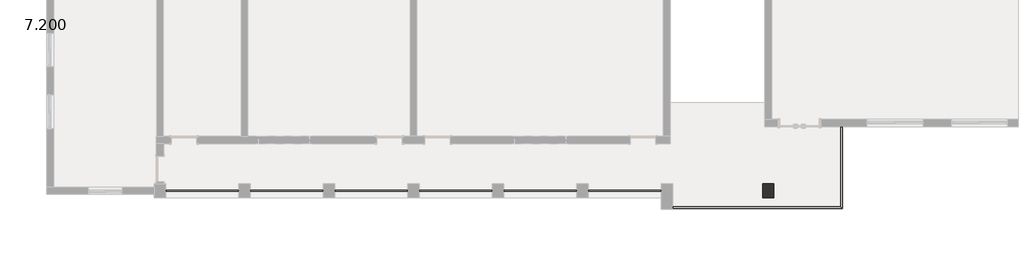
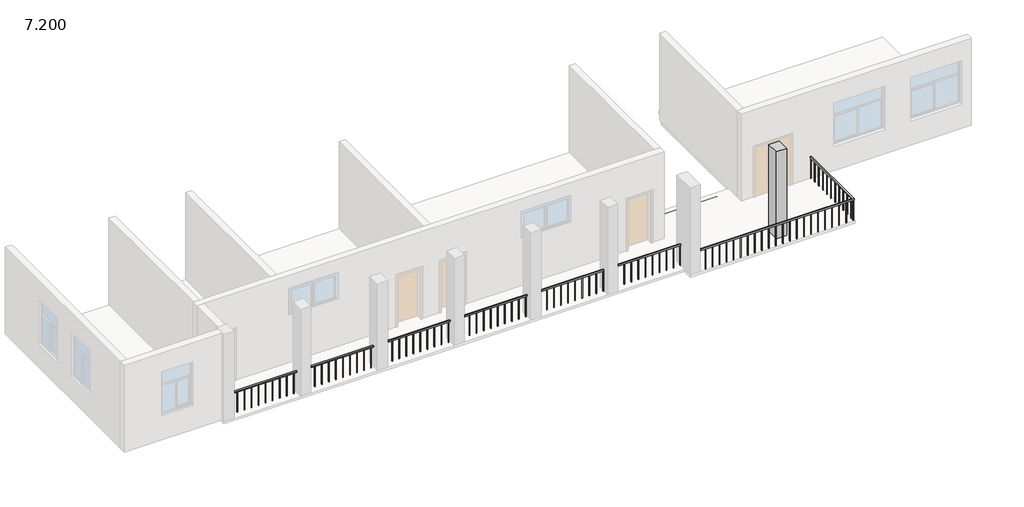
# One storey, part 2 of 2: 2 railings, 1 beam, 1 column.
"""IFC4 building model written with IfcOpenShell, lengths in millimetres."""

from ifc_helpers import new_model, si_unit, frame, origin, place, context, project, spatial, polyline, outline, extrude, faceted_brep, transform, mapped, element, save
from components import beam_200mmx150mm_381acce5, column_400x500mm_8f91d95e

model = new_model("IFC4")

# Units and contexts
model_context = context("Model", 3, world=origin())
ifc_project = project(units=[si_unit("LENGTHUNIT", "METRE", prefix="MILLI")], contexts=[model_context])

# Site, building, storey
site = spatial("IfcSite", under=ifc_project)
building = spatial("IfcBuilding", under=site)
storey = spatial("IfcBuildingStorey", under=building, Name="7.200", Elevation=7200.0)

# Beam
placement = place(None, origin())
beam_200mmx150mm_shape = beam_200mmx150mm_381acce5(model_context)
element("IfcBeam", 1, ObjectType="混凝土 - 矩形梁 : 200mmX150mm", at=placement, inside=storey, context=model_context, shape_type="MappedRepresentation", body=[
    mapped(beam_200mmx150mm_shape, transform((353.9823355, -22918.2373497, 7025.0), x_axis=(1.0, 0.0, 0.0), y_axis=(0.0, 1.0, 0.0), z_axis=(0.0, 0.0, 1.0))),
])

# Column
column_400x500mm_shape = column_400x500mm_8f91d95e(model_context)
element("IfcColumn", 2, ObjectType="混凝土 - 矩形 - 柱 : 400X500mm", at=placement, inside=storey, context=model_context, shape_type="MappedRepresentation", body=[
    mapped(column_400x500mm_shape, transform((2140.8785458, -25938.2373497, 0.0), x_axis=(1.0, 0.0, 0.0), y_axis=(0.0, 1.0, 0.0), z_axis=(0.0, 0.0, 1.0))),
])

# Railings
element("IfcRailing", 3, ObjectType="900mm", at=placement, inside=storey, context=model_context, shape_type="SweptSolid", body=[
    extrude(outline(polyline([(-19259.1214542, -25963.2373497), (-19259.1214542, -25913.2373497), (-1659.1214542, -25913.2373497), (-1659.1214542, -25963.2373497), (-19259.1214542, -25963.2373497)])), frame((0.0, 0.0, 8050.0), z_axis=(0.0, 0.0, 1.0), x_axis=(1.0, 0.0, 0.0)), (0.0, 0.0, 1.0), 50.0),
    extrude(outline(polyline([(-1944.1214542, -25948.2373497), (-1944.1214542, -25928.2373497), (-1924.1214542, -25928.2373497), (-1924.1214542, -25948.2373497), (-1944.1214542, -25948.2373497)])), frame((0.0, 0.0, 7200.0), z_axis=(0.0, 0.0, 1.0), x_axis=(1.0, 0.0, 0.0)), (0.0, 0.0, 1.0), 850.0),
    extrude(outline(polyline([(-2219.1214542, -25948.2373497), (-2219.1214542, -25928.2373497), (-2199.1214542, -25928.2373497), (-2199.1214542, -25948.2373497), (-2219.1214542, -25948.2373497)])), frame((0.0, 0.0, 7200.0), z_axis=(0.0, 0.0, 1.0), x_axis=(1.0, 0.0, 0.0)), (0.0, 0.0, 1.0), 850.0),
    extrude(outline(polyline([(-2494.1214542, -25948.2373497), (-2494.1214542, -25928.2373497), (-2474.1214542, -25928.2373497), (-2474.1214542, -25948.2373497), (-2494.1214542, -25948.2373497)])), frame((0.0, 0.0, 7200.0), z_axis=(0.0, 0.0, 1.0), x_axis=(1.0, 0.0, 0.0)), (0.0, 0.0, 1.0), 850.0),
    extrude(outline(polyline([(-2769.1214542, -25948.2373497), (-2769.1214542, -25928.2373497), (-2749.1214542, -25928.2373497), (-2749.1214542, -25948.2373497), (-2769.1214542, -25948.2373497)])), frame((0.0, 0.0, 7200.0), z_axis=(0.0, 0.0, 1.0), x_axis=(1.0, 0.0, 0.0)), (0.0, 0.0, 1.0), 850.0),
    extrude(outline(polyline([(-3044.1214542, -25948.2373497), (-3044.1214542, -25928.2373497), (-3024.1214542, -25928.2373497), (-3024.1214542, -25948.2373497), (-3044.1214542, -25948.2373497)])), frame((0.0, 0.0, 7200.0), z_axis=(0.0, 0.0, 1.0), x_axis=(1.0, 0.0, 0.0)), (0.0, 0.0, 1.0), 850.0),
    extrude(outline(polyline([(-3319.1214542, -25948.2373497), (-3319.1214542, -25928.2373497), (-3299.1214542, -25928.2373497), (-3299.1214542, -25948.2373497), (-3319.1214542, -25948.2373497)])), frame((0.0, 0.0, 7200.0), z_axis=(0.0, 0.0, 1.0), x_axis=(1.0, 0.0, 0.0)), (0.0, 0.0, 1.0), 850.0),
    extrude(outline(polyline([(-3594.1214542, -25948.2373497), (-3594.1214542, -25928.2373497), (-3574.1214542, -25928.2373497), (-3574.1214542, -25948.2373497), (-3594.1214542, -25948.2373497)])), frame((0.0, 0.0, 7200.0), z_axis=(0.0, 0.0, 1.0), x_axis=(1.0, 0.0, 0.0)), (0.0, 0.0, 1.0), 850.0),
    extrude(outline(polyline([(-3869.1214542, -25948.2373497), (-3869.1214542, -25928.2373497), (-3849.1214542, -25928.2373497), (-3849.1214542, -25948.2373497), (-3869.1214542, -25948.2373497)])), frame((0.0, 0.0, 7200.0), z_axis=(0.0, 0.0, 1.0), x_axis=(1.0, 0.0, 0.0)), (0.0, 0.0, 1.0), 850.0),
    extrude(outline(polyline([(-4144.1214542, -25948.2373497), (-4144.1214542, -25928.2373497), (-4124.1214542, -25928.2373497), (-4124.1214542, -25948.2373497), (-4144.1214542, -25948.2373497)])), frame((0.0, 0.0, 7200.0), z_axis=(0.0, 0.0, 1.0), x_axis=(1.0, 0.0, 0.0)), (0.0, 0.0, 1.0), 850.0),
    extrude(outline(polyline([(-4419.1214542, -25948.2373497), (-4419.1214542, -25928.2373497), (-4399.1214542, -25928.2373497), (-4399.1214542, -25948.2373497), (-4419.1214542, -25948.2373497)])), frame((0.0, 0.0, 7200.0), z_axis=(0.0, 0.0, 1.0), x_axis=(1.0, 0.0, 0.0)), (0.0, 0.0, 1.0), 850.0),
    extrude(outline(polyline([(-4694.1214542, -25948.2373497), (-4694.1214542, -25928.2373497), (-4674.1214542, -25928.2373497), (-4674.1214542, -25948.2373497), (-4694.1214542, -25948.2373497)])), frame((0.0, 0.0, 7200.0), z_axis=(0.0, 0.0, 1.0), x_axis=(1.0, 0.0, 0.0)), (0.0, 0.0, 1.0), 850.0),
    extrude(outline(polyline([(-4969.1214542, -25948.2373497), (-4969.1214542, -25928.2373497), (-4949.1214542, -25928.2373497), (-4949.1214542, -25948.2373497), (-4969.1214542, -25948.2373497)])), frame((0.0, 0.0, 7200.0), z_axis=(0.0, 0.0, 1.0), x_axis=(1.0, 0.0, 0.0)), (0.0, 0.0, 1.0), 850.0),
    extrude(outline(polyline([(-5244.1214542, -25948.2373497), (-5244.1214542, -25928.2373497), (-5224.1214542, -25928.2373497), (-5224.1214542, -25948.2373497), (-5244.1214542, -25948.2373497)])), frame((0.0, 0.0, 7200.0), z_axis=(0.0, 0.0, 1.0), x_axis=(1.0, 0.0, 0.0)), (0.0, 0.0, 1.0), 850.0),
    extrude(outline(polyline([(-5519.1214542, -25948.2373497), (-5519.1214542, -25928.2373497), (-5499.1214542, -25928.2373497), (-5499.1214542, -25948.2373497), (-5519.1214542, -25948.2373497)])), frame((0.0, 0.0, 7200.0), z_axis=(0.0, 0.0, 1.0), x_axis=(1.0, 0.0, 0.0)), (0.0, 0.0, 1.0), 850.0),
    extrude(outline(polyline([(-5794.1214542, -25948.2373497), (-5794.1214542, -25928.2373497), (-5774.1214542, -25928.2373497), (-5774.1214542, -25948.2373497), (-5794.1214542, -25948.2373497)])), frame((0.0, 0.0, 7200.0), z_axis=(0.0, 0.0, 1.0), x_axis=(1.0, 0.0, 0.0)), (0.0, 0.0, 1.0), 850.0),
    extrude(outline(polyline([(-6069.1214542, -25948.2373497), (-6069.1214542, -25928.2373497), (-6049.1214542, -25928.2373497), (-6049.1214542, -25948.2373497), (-6069.1214542, -25948.2373497)])), frame((0.0, 0.0, 7200.0), z_axis=(0.0, 0.0, 1.0), x_axis=(1.0, 0.0, 0.0)), (0.0, 0.0, 1.0), 850.0),
    extrude(outline(polyline([(-6344.1214542, -25948.2373497), (-6344.1214542, -25928.2373497), (-6324.1214542, -25928.2373497), (-6324.1214542, -25948.2373497), (-6344.1214542, -25948.2373497)])), frame((0.0, 0.0, 7200.0), z_axis=(0.0, 0.0, 1.0), x_axis=(1.0, 0.0, 0.0)), (0.0, 0.0, 1.0), 850.0),
    extrude(outline(polyline([(-6619.1214542, -25948.2373497), (-6619.1214542, -25928.2373497), (-6599.1214542, -25928.2373497), (-6599.1214542, -25948.2373497), (-6619.1214542, -25948.2373497)])), frame((0.0, 0.0, 7200.0), z_axis=(0.0, 0.0, 1.0), x_axis=(1.0, 0.0, 0.0)), (0.0, 0.0, 1.0), 850.0),
    extrude(outline(polyline([(-6894.1214542, -25948.2373497), (-6894.1214542, -25928.2373497), (-6874.1214542, -25928.2373497), (-6874.1214542, -25948.2373497), (-6894.1214542, -25948.2373497)])), frame((0.0, 0.0, 7200.0), z_axis=(0.0, 0.0, 1.0), x_axis=(1.0, 0.0, 0.0)), (0.0, 0.0, 1.0), 850.0),
    extrude(outline(polyline([(-7169.1214542, -25948.2373497), (-7169.1214542, -25928.2373497), (-7149.1214542, -25928.2373497), (-7149.1214542, -25948.2373497), (-7169.1214542, -25948.2373497)])), frame((0.0, 0.0, 7200.0), z_axis=(0.0, 0.0, 1.0), x_axis=(1.0, 0.0, 0.0)), (0.0, 0.0, 1.0), 850.0),
    extrude(outline(polyline([(-7444.1214542, -25948.2373497), (-7444.1214542, -25928.2373497), (-7424.1214542, -25928.2373497), (-7424.1214542, -25948.2373497), (-7444.1214542, -25948.2373497)])), frame((0.0, 0.0, 7200.0), z_axis=(0.0, 0.0, 1.0), x_axis=(1.0, 0.0, 0.0)), (0.0, 0.0, 1.0), 850.0),
    extrude(outline(polyline([(-7719.1214542, -25948.2373497), (-7719.1214542, -25928.2373497), (-7699.1214542, -25928.2373497), (-7699.1214542, -25948.2373497), (-7719.1214542, -25948.2373497)])), frame((0.0, 0.0, 7200.0), z_axis=(0.0, 0.0, 1.0), x_axis=(1.0, 0.0, 0.0)), (0.0, 0.0, 1.0), 850.0),
    extrude(outline(polyline([(-7994.1214542, -25948.2373497), (-7994.1214542, -25928.2373497), (-7974.1214542, -25928.2373497), (-7974.1214542, -25948.2373497), (-7994.1214542, -25948.2373497)])), frame((0.0, 0.0, 7200.0), z_axis=(0.0, 0.0, 1.0), x_axis=(1.0, 0.0, 0.0)), (0.0, 0.0, 1.0), 850.0),
    extrude(outline(polyline([(-8269.1214542, -25948.2373497), (-8269.1214542, -25928.2373497), (-8249.1214542, -25928.2373497), (-8249.1214542, -25948.2373497), (-8269.1214542, -25948.2373497)])), frame((0.0, 0.0, 7200.0), z_axis=(0.0, 0.0, 1.0), x_axis=(1.0, 0.0, 0.0)), (0.0, 0.0, 1.0), 850.0),
    extrude(outline(polyline([(-8544.1214542, -25948.2373497), (-8544.1214542, -25928.2373497), (-8524.1214542, -25928.2373497), (-8524.1214542, -25948.2373497), (-8544.1214542, -25948.2373497)])), frame((0.0, 0.0, 7200.0), z_axis=(0.0, 0.0, 1.0), x_axis=(1.0, 0.0, 0.0)), (0.0, 0.0, 1.0), 850.0),
    extrude(outline(polyline([(-8819.1214542, -25948.2373497), (-8819.1214542, -25928.2373497), (-8799.1214542, -25928.2373497), (-8799.1214542, -25948.2373497), (-8819.1214542, -25948.2373497)])), frame((0.0, 0.0, 7200.0), z_axis=(0.0, 0.0, 1.0), x_axis=(1.0, 0.0, 0.0)), (0.0, 0.0, 1.0), 850.0),
    extrude(outline(polyline([(-9094.1214542, -25948.2373497), (-9094.1214542, -25928.2373497), (-9074.1214542, -25928.2373497), (-9074.1214542, -25948.2373497), (-9094.1214542, -25948.2373497)])), frame((0.0, 0.0, 7200.0), z_axis=(0.0, 0.0, 1.0), x_axis=(1.0, 0.0, 0.0)), (0.0, 0.0, 1.0), 850.0),
    extrude(outline(polyline([(-9369.1214542, -25948.2373497), (-9369.1214542, -25928.2373497), (-9349.1214542, -25928.2373497), (-9349.1214542, -25948.2373497), (-9369.1214542, -25948.2373497)])), frame((0.0, 0.0, 7200.0), z_axis=(0.0, 0.0, 1.0), x_axis=(1.0, 0.0, 0.0)), (0.0, 0.0, 1.0), 850.0),
    extrude(outline(polyline([(-9644.1214542, -25948.2373497), (-9644.1214542, -25928.2373497), (-9624.1214542, -25928.2373497), (-9624.1214542, -25948.2373497), (-9644.1214542, -25948.2373497)])), frame((0.0, 0.0, 7200.0), z_axis=(0.0, 0.0, 1.0), x_axis=(1.0, 0.0, 0.0)), (0.0, 0.0, 1.0), 850.0),
    extrude(outline(polyline([(-9919.1214542, -25948.2373497), (-9919.1214542, -25928.2373497), (-9899.1214542, -25928.2373497), (-9899.1214542, -25948.2373497), (-9919.1214542, -25948.2373497)])), frame((0.0, 0.0, 7200.0), z_axis=(0.0, 0.0, 1.0), x_axis=(1.0, 0.0, 0.0)), (0.0, 0.0, 1.0), 850.0),
    extrude(outline(polyline([(-10194.1214542, -25948.2373497), (-10194.1214542, -25928.2373497), (-10174.1214542, -25928.2373497), (-10174.1214542, -25948.2373497), (-10194.1214542, -25948.2373497)])), frame((0.0, 0.0, 7200.0), z_axis=(0.0, 0.0, 1.0), x_axis=(1.0, 0.0, 0.0)), (0.0, 0.0, 1.0), 850.0),
    extrude(outline(polyline([(-10469.1214542, -25948.2373497), (-10469.1214542, -25928.2373497), (-10449.1214542, -25928.2373497), (-10449.1214542, -25948.2373497), (-10469.1214542, -25948.2373497)])), frame((0.0, 0.0, 7200.0), z_axis=(0.0, 0.0, 1.0), x_axis=(1.0, 0.0, 0.0)), (0.0, 0.0, 1.0), 850.0),
    extrude(outline(polyline([(-10744.1214542, -25948.2373497), (-10744.1214542, -25928.2373497), (-10724.1214542, -25928.2373497), (-10724.1214542, -25948.2373497), (-10744.1214542, -25948.2373497)])), frame((0.0, 0.0, 7200.0), z_axis=(0.0, 0.0, 1.0), x_axis=(1.0, 0.0, 0.0)), (0.0, 0.0, 1.0), 850.0),
    extrude(outline(polyline([(-11019.1214542, -25948.2373497), (-11019.1214542, -25928.2373497), (-10999.1214542, -25928.2373497), (-10999.1214542, -25948.2373497), (-11019.1214542, -25948.2373497)])), frame((0.0, 0.0, 7200.0), z_axis=(0.0, 0.0, 1.0), x_axis=(1.0, 0.0, 0.0)), (0.0, 0.0, 1.0), 850.0),
    extrude(outline(polyline([(-11294.1214542, -25948.2373497), (-11294.1214542, -25928.2373497), (-11274.1214542, -25928.2373497), (-11274.1214542, -25948.2373497), (-11294.1214542, -25948.2373497)])), frame((0.0, 0.0, 7200.0), z_axis=(0.0, 0.0, 1.0), x_axis=(1.0, 0.0, 0.0)), (0.0, 0.0, 1.0), 850.0),
    extrude(outline(polyline([(-11569.1214542, -25948.2373497), (-11569.1214542, -25928.2373497), (-11549.1214542, -25928.2373497), (-11549.1214542, -25948.2373497), (-11569.1214542, -25948.2373497)])), frame((0.0, 0.0, 7200.0), z_axis=(0.0, 0.0, 1.0), x_axis=(1.0, 0.0, 0.0)), (0.0, 0.0, 1.0), 850.0),
    extrude(outline(polyline([(-11844.1214542, -25948.2373497), (-11844.1214542, -25928.2373497), (-11824.1214542, -25928.2373497), (-11824.1214542, -25948.2373497), (-11844.1214542, -25948.2373497)])), frame((0.0, 0.0, 7200.0), z_axis=(0.0, 0.0, 1.0), x_axis=(1.0, 0.0, 0.0)), (0.0, 0.0, 1.0), 850.0),
    extrude(outline(polyline([(-12119.1214542, -25948.2373497), (-12119.1214542, -25928.2373497), (-12099.1214542, -25928.2373497), (-12099.1214542, -25948.2373497), (-12119.1214542, -25948.2373497)])), frame((0.0, 0.0, 7200.0), z_axis=(0.0, 0.0, 1.0), x_axis=(1.0, 0.0, 0.0)), (0.0, 0.0, 1.0), 850.0),
    extrude(outline(polyline([(-12394.1214542, -25948.2373497), (-12394.1214542, -25928.2373497), (-12374.1214542, -25928.2373497), (-12374.1214542, -25948.2373497), (-12394.1214542, -25948.2373497)])), frame((0.0, 0.0, 7200.0), z_axis=(0.0, 0.0, 1.0), x_axis=(1.0, 0.0, 0.0)), (0.0, 0.0, 1.0), 850.0),
    extrude(outline(polyline([(-12669.1214542, -25948.2373497), (-12669.1214542, -25928.2373497), (-12649.1214542, -25928.2373497), (-12649.1214542, -25948.2373497), (-12669.1214542, -25948.2373497)])), frame((0.0, 0.0, 7200.0), z_axis=(0.0, 0.0, 1.0), x_axis=(1.0, 0.0, 0.0)), (0.0, 0.0, 1.0), 850.0),
    extrude(outline(polyline([(-12944.1214542, -25948.2373497), (-12944.1214542, -25928.2373497), (-12924.1214542, -25928.2373497), (-12924.1214542, -25948.2373497), (-12944.1214542, -25948.2373497)])), frame((0.0, 0.0, 7200.0), z_axis=(0.0, 0.0, 1.0), x_axis=(1.0, 0.0, 0.0)), (0.0, 0.0, 1.0), 850.0),
    extrude(outline(polyline([(-13219.1214542, -25948.2373497), (-13219.1214542, -25928.2373497), (-13199.1214542, -25928.2373497), (-13199.1214542, -25948.2373497), (-13219.1214542, -25948.2373497)])), frame((0.0, 0.0, 7200.0), z_axis=(0.0, 0.0, 1.0), x_axis=(1.0, 0.0, 0.0)), (0.0, 0.0, 1.0), 850.0),
    extrude(outline(polyline([(-13494.1214542, -25948.2373497), (-13494.1214542, -25928.2373497), (-13474.1214542, -25928.2373497), (-13474.1214542, -25948.2373497), (-13494.1214542, -25948.2373497)])), frame((0.0, 0.0, 7200.0), z_axis=(0.0, 0.0, 1.0), x_axis=(1.0, 0.0, 0.0)), (0.0, 0.0, 1.0), 850.0),
    extrude(outline(polyline([(-13769.1214542, -25948.2373497), (-13769.1214542, -25928.2373497), (-13749.1214542, -25928.2373497), (-13749.1214542, -25948.2373497), (-13769.1214542, -25948.2373497)])), frame((0.0, 0.0, 7200.0), z_axis=(0.0, 0.0, 1.0), x_axis=(1.0, 0.0, 0.0)), (0.0, 0.0, 1.0), 850.0),
    extrude(outline(polyline([(-14044.1214542, -25948.2373497), (-14044.1214542, -25928.2373497), (-14024.1214542, -25928.2373497), (-14024.1214542, -25948.2373497), (-14044.1214542, -25948.2373497)])), frame((0.0, 0.0, 7200.0), z_axis=(0.0, 0.0, 1.0), x_axis=(1.0, 0.0, 0.0)), (0.0, 0.0, 1.0), 850.0),
    extrude(outline(polyline([(-14319.1214542, -25948.2373497), (-14319.1214542, -25928.2373497), (-14299.1214542, -25928.2373497), (-14299.1214542, -25948.2373497), (-14319.1214542, -25948.2373497)])), frame((0.0, 0.0, 7200.0), z_axis=(0.0, 0.0, 1.0), x_axis=(1.0, 0.0, 0.0)), (0.0, 0.0, 1.0), 850.0),
    extrude(outline(polyline([(-14594.1214542, -25948.2373497), (-14594.1214542, -25928.2373497), (-14574.1214542, -25928.2373497), (-14574.1214542, -25948.2373497), (-14594.1214542, -25948.2373497)])), frame((0.0, 0.0, 7200.0), z_axis=(0.0, 0.0, 1.0), x_axis=(1.0, 0.0, 0.0)), (0.0, 0.0, 1.0), 850.0),
    extrude(outline(polyline([(-14869.1214542, -25948.2373497), (-14869.1214542, -25928.2373497), (-14849.1214542, -25928.2373497), (-14849.1214542, -25948.2373497), (-14869.1214542, -25948.2373497)])), frame((0.0, 0.0, 7200.0), z_axis=(0.0, 0.0, 1.0), x_axis=(1.0, 0.0, 0.0)), (0.0, 0.0, 1.0), 850.0),
    extrude(outline(polyline([(-15144.1214542, -25948.2373497), (-15144.1214542, -25928.2373497), (-15124.1214542, -25928.2373497), (-15124.1214542, -25948.2373497), (-15144.1214542, -25948.2373497)])), frame((0.0, 0.0, 7200.0), z_axis=(0.0, 0.0, 1.0), x_axis=(1.0, 0.0, 0.0)), (0.0, 0.0, 1.0), 850.0),
    extrude(outline(polyline([(-15419.1214542, -25948.2373497), (-15419.1214542, -25928.2373497), (-15399.1214542, -25928.2373497), (-15399.1214542, -25948.2373497), (-15419.1214542, -25948.2373497)])), frame((0.0, 0.0, 7200.0), z_axis=(0.0, 0.0, 1.0), x_axis=(1.0, 0.0, 0.0)), (0.0, 0.0, 1.0), 850.0),
    extrude(outline(polyline([(-15694.1214542, -25948.2373497), (-15694.1214542, -25928.2373497), (-15674.1214542, -25928.2373497), (-15674.1214542, -25948.2373497), (-15694.1214542, -25948.2373497)])), frame((0.0, 0.0, 7200.0), z_axis=(0.0, 0.0, 1.0), x_axis=(1.0, 0.0, 0.0)), (0.0, 0.0, 1.0), 850.0),
    extrude(outline(polyline([(-15969.1214542, -25948.2373497), (-15969.1214542, -25928.2373497), (-15949.1214542, -25928.2373497), (-15949.1214542, -25948.2373497), (-15969.1214542, -25948.2373497)])), frame((0.0, 0.0, 7200.0), z_axis=(0.0, 0.0, 1.0), x_axis=(1.0, 0.0, 0.0)), (0.0, 0.0, 1.0), 850.0),
    extrude(outline(polyline([(-16244.1214542, -25948.2373497), (-16244.1214542, -25928.2373497), (-16224.1214542, -25928.2373497), (-16224.1214542, -25948.2373497), (-16244.1214542, -25948.2373497)])), frame((0.0, 0.0, 7200.0), z_axis=(0.0, 0.0, 1.0), x_axis=(1.0, 0.0, 0.0)), (0.0, 0.0, 1.0), 850.0),
    extrude(outline(polyline([(-16519.1214542, -25948.2373497), (-16519.1214542, -25928.2373497), (-16499.1214542, -25928.2373497), (-16499.1214542, -25948.2373497), (-16519.1214542, -25948.2373497)])), frame((0.0, 0.0, 7200.0), z_axis=(0.0, 0.0, 1.0), x_axis=(1.0, 0.0, 0.0)), (0.0, 0.0, 1.0), 850.0),
    extrude(outline(polyline([(-16794.1214542, -25948.2373497), (-16794.1214542, -25928.2373497), (-16774.1214542, -25928.2373497), (-16774.1214542, -25948.2373497), (-16794.1214542, -25948.2373497)])), frame((0.0, 0.0, 7200.0), z_axis=(0.0, 0.0, 1.0), x_axis=(1.0, 0.0, 0.0)), (0.0, 0.0, 1.0), 850.0),
    extrude(outline(polyline([(-17069.1214542, -25948.2373497), (-17069.1214542, -25928.2373497), (-17049.1214542, -25928.2373497), (-17049.1214542, -25948.2373497), (-17069.1214542, -25948.2373497)])), frame((0.0, 0.0, 7200.0), z_axis=(0.0, 0.0, 1.0), x_axis=(1.0, 0.0, 0.0)), (0.0, 0.0, 1.0), 850.0),
    extrude(outline(polyline([(-17344.1214542, -25948.2373497), (-17344.1214542, -25928.2373497), (-17324.1214542, -25928.2373497), (-17324.1214542, -25948.2373497), (-17344.1214542, -25948.2373497)])), frame((0.0, 0.0, 7200.0), z_axis=(0.0, 0.0, 1.0), x_axis=(1.0, 0.0, 0.0)), (0.0, 0.0, 1.0), 850.0),
    extrude(outline(polyline([(-17619.1214542, -25948.2373497), (-17619.1214542, -25928.2373497), (-17599.1214542, -25928.2373497), (-17599.1214542, -25948.2373497), (-17619.1214542, -25948.2373497)])), frame((0.0, 0.0, 7200.0), z_axis=(0.0, 0.0, 1.0), x_axis=(1.0, 0.0, 0.0)), (0.0, 0.0, 1.0), 850.0),
    extrude(outline(polyline([(-17894.1214542, -25948.2373497), (-17894.1214542, -25928.2373497), (-17874.1214542, -25928.2373497), (-17874.1214542, -25948.2373497), (-17894.1214542, -25948.2373497)])), frame((0.0, 0.0, 7200.0), z_axis=(0.0, 0.0, 1.0), x_axis=(1.0, 0.0, 0.0)), (0.0, 0.0, 1.0), 850.0),
    extrude(outline(polyline([(-18169.1214542, -25948.2373497), (-18169.1214542, -25928.2373497), (-18149.1214542, -25928.2373497), (-18149.1214542, -25948.2373497), (-18169.1214542, -25948.2373497)])), frame((0.0, 0.0, 7200.0), z_axis=(0.0, 0.0, 1.0), x_axis=(1.0, 0.0, 0.0)), (0.0, 0.0, 1.0), 850.0),
    extrude(outline(polyline([(-18444.1214542, -25948.2373497), (-18444.1214542, -25928.2373497), (-18424.1214542, -25928.2373497), (-18424.1214542, -25948.2373497), (-18444.1214542, -25948.2373497)])), frame((0.0, 0.0, 7200.0), z_axis=(0.0, 0.0, 1.0), x_axis=(1.0, 0.0, 0.0)), (0.0, 0.0, 1.0), 850.0),
    extrude(outline(polyline([(-18719.1214542, -25948.2373497), (-18719.1214542, -25928.2373497), (-18699.1214542, -25928.2373497), (-18699.1214542, -25948.2373497), (-18719.1214542, -25948.2373497)])), frame((0.0, 0.0, 7200.0), z_axis=(0.0, 0.0, 1.0), x_axis=(1.0, 0.0, 0.0)), (0.0, 0.0, 1.0), 850.0),
    extrude(outline(polyline([(-18994.1214542, -25948.2373497), (-18994.1214542, -25928.2373497), (-18974.1214542, -25928.2373497), (-18974.1214542, -25948.2373497), (-18994.1214542, -25948.2373497)])), frame((0.0, 0.0, 7200.0), z_axis=(0.0, 0.0, 1.0), x_axis=(1.0, 0.0, 0.0)), (0.0, 0.0, 1.0), 850.0),
    extrude(outline(polyline([(-1679.1214542, -25948.2373497), (-1679.1214542, -25928.2373497), (-1659.1214542, -25928.2373497), (-1659.1214542, -25948.2373497), (-1679.1214542, -25948.2373497)])), frame((0.0, 0.0, 7200.0), z_axis=(0.0, 0.0, 1.0), x_axis=(1.0, 0.0, 0.0)), (0.0, 0.0, 1.0), 850.0),
    extrude(outline(polyline([(-19259.1214542, -25948.2373497), (-19259.1214542, -25928.2373497), (-19239.1214542, -25928.2373497), (-19239.1214542, -25948.2373497), (-19259.1214542, -25948.2373497)])), frame((0.0, 0.0, 7200.0), z_axis=(0.0, 0.0, 1.0), x_axis=(1.0, 0.0, 0.0)), (0.0, 0.0, 1.0), 850.0),
])
element("IfcRailing", 4, ObjectType="900mm", at=placement, inside=storey, context=model_context, shape_type="SolidModel", body=[
    faceted_brep([(4765.8785458, -23668.2373497, 8100.0), (4765.8785458, -23668.2373497, 8050.0), (4715.8785458, -23668.2373497, 8050.0), (4715.8785458, -23668.2373497, 8100.0), (4765.8785458, -26563.2373497, 8100.0), (4765.8785458, -26563.2373497, 8050.0), (4715.8785458, -26513.2373497, 8050.0), (4715.8785458, -26513.2373497, 8100.0), (-1259.1214542, -26563.2373497, 8100.0), (-1259.1214542, -26513.2373497, 8100.0), (-1259.1214542, -26513.2373497, 8050.0), (-1259.1214542, -26563.2373497, 8050.0)], [[[0, 1, 2, 3]], [[1, 0, 4, 5]], [[2, 1, 5, 6]], [[3, 2, 6, 7]], [[0, 3, 7, 4]], [[8, 9, 10, 11]], [[5, 4, 8, 11]], [[6, 5, 11, 10]], [[7, 6, 10, 9]], [[4, 7, 9, 8]]]),
    extrude(outline(polyline([(-1024.1214542, -26528.2373497), (-1024.1214542, -26548.2373497), (-1044.1214542, -26548.2373497), (-1044.1214542, -26528.2373497), (-1024.1214542, -26528.2373497)])), frame((0.0, 0.0, 7200.0), z_axis=(0.0, 0.0, 1.0), x_axis=(1.0, 0.0, 0.0)), (0.0, 0.0, 1.0), 850.0),
    extrude(outline(polyline([(-749.1214542, -26528.2373497), (-749.1214542, -26548.2373497), (-769.1214542, -26548.2373497), (-769.1214542, -26528.2373497), (-749.1214542, -26528.2373497)])), frame((0.0, 0.0, 7200.0), z_axis=(0.0, 0.0, 1.0), x_axis=(1.0, 0.0, 0.0)), (0.0, 0.0, 1.0), 850.0),
    extrude(outline(polyline([(-474.1214542, -26528.2373497), (-474.1214542, -26548.2373497), (-494.1214542, -26548.2373497), (-494.1214542, -26528.2373497), (-474.1214542, -26528.2373497)])), frame((0.0, 0.0, 7200.0), z_axis=(0.0, 0.0, 1.0), x_axis=(1.0, 0.0, 0.0)), (0.0, 0.0, 1.0), 850.0),
    extrude(outline(polyline([(-199.1214542, -26528.2373497), (-199.1214542, -26548.2373497), (-219.1214542, -26548.2373497), (-219.1214542, -26528.2373497), (-199.1214542, -26528.2373497)])), frame((0.0, 0.0, 7200.0), z_axis=(0.0, 0.0, 1.0), x_axis=(1.0, 0.0, 0.0)), (0.0, 0.0, 1.0), 850.0),
    extrude(outline(polyline([(75.8785458, -26528.2373497), (75.8785458, -26548.2373497), (55.8785458, -26548.2373497), (55.8785458, -26528.2373497), (75.8785458, -26528.2373497)])), frame((0.0, 0.0, 7200.0), z_axis=(0.0, 0.0, 1.0), x_axis=(1.0, 0.0, 0.0)), (0.0, 0.0, 1.0), 850.0),
    extrude(outline(polyline([(350.8785458, -26528.2373497), (350.8785458, -26548.2373497), (330.8785458, -26548.2373497), (330.8785458, -26528.2373497), (350.8785458, -26528.2373497)])), frame((0.0, 0.0, 7200.0), z_axis=(0.0, 0.0, 1.0), x_axis=(1.0, 0.0, 0.0)), (0.0, 0.0, 1.0), 850.0),
    extrude(outline(polyline([(625.8785458, -26528.2373497), (625.8785458, -26548.2373497), (605.8785458, -26548.2373497), (605.8785458, -26528.2373497), (625.8785458, -26528.2373497)])), frame((0.0, 0.0, 7200.0), z_axis=(0.0, 0.0, 1.0), x_axis=(1.0, 0.0, 0.0)), (0.0, 0.0, 1.0), 850.0),
    extrude(outline(polyline([(900.8785458, -26528.2373497), (900.8785458, -26548.2373497), (880.8785458, -26548.2373497), (880.8785458, -26528.2373497), (900.8785458, -26528.2373497)])), frame((0.0, 0.0, 7200.0), z_axis=(0.0, 0.0, 1.0), x_axis=(1.0, 0.0, 0.0)), (0.0, 0.0, 1.0), 850.0),
    extrude(outline(polyline([(1175.8785458, -26528.2373497), (1175.8785458, -26548.2373497), (1155.8785458, -26548.2373497), (1155.8785458, -26528.2373497), (1175.8785458, -26528.2373497)])), frame((0.0, 0.0, 7200.0), z_axis=(0.0, 0.0, 1.0), x_axis=(1.0, 0.0, 0.0)), (0.0, 0.0, 1.0), 850.0),
    extrude(outline(polyline([(1450.8785458, -26528.2373497), (1450.8785458, -26548.2373497), (1430.8785458, -26548.2373497), (1430.8785458, -26528.2373497), (1450.8785458, -26528.2373497)])), frame((0.0, 0.0, 7200.0), z_axis=(0.0, 0.0, 1.0), x_axis=(1.0, 0.0, 0.0)), (0.0, 0.0, 1.0), 850.0),
    extrude(outline(polyline([(1725.8785458, -26528.2373497), (1725.8785458, -26548.2373497), (1705.8785458, -26548.2373497), (1705.8785458, -26528.2373497), (1725.8785458, -26528.2373497)])), frame((0.0, 0.0, 7200.0), z_axis=(0.0, 0.0, 1.0), x_axis=(1.0, 0.0, 0.0)), (0.0, 0.0, 1.0), 850.0),
    extrude(outline(polyline([(2000.8785458, -26528.2373497), (2000.8785458, -26548.2373497), (1980.8785458, -26548.2373497), (1980.8785458, -26528.2373497), (2000.8785458, -26528.2373497)])), frame((0.0, 0.0, 7200.0), z_axis=(0.0, 0.0, 1.0), x_axis=(1.0, 0.0, 0.0)), (0.0, 0.0, 1.0), 850.0),
    extrude(outline(polyline([(2275.8785458, -26528.2373497), (2275.8785458, -26548.2373497), (2255.8785458, -26548.2373497), (2255.8785458, -26528.2373497), (2275.8785458, -26528.2373497)])), frame((0.0, 0.0, 7200.0), z_axis=(0.0, 0.0, 1.0), x_axis=(1.0, 0.0, 0.0)), (0.0, 0.0, 1.0), 850.0),
    extrude(outline(polyline([(2550.8785458, -26528.2373497), (2550.8785458, -26548.2373497), (2530.8785458, -26548.2373497), (2530.8785458, -26528.2373497), (2550.8785458, -26528.2373497)])), frame((0.0, 0.0, 7200.0), z_axis=(0.0, 0.0, 1.0), x_axis=(1.0, 0.0, 0.0)), (0.0, 0.0, 1.0), 850.0),
    extrude(outline(polyline([(2825.8785458, -26528.2373497), (2825.8785458, -26548.2373497), (2805.8785458, -26548.2373497), (2805.8785458, -26528.2373497), (2825.8785458, -26528.2373497)])), frame((0.0, 0.0, 7200.0), z_axis=(0.0, 0.0, 1.0), x_axis=(1.0, 0.0, 0.0)), (0.0, 0.0, 1.0), 850.0),
    extrude(outline(polyline([(3100.8785458, -26528.2373497), (3100.8785458, -26548.2373497), (3080.8785458, -26548.2373497), (3080.8785458, -26528.2373497), (3100.8785458, -26528.2373497)])), frame((0.0, 0.0, 7200.0), z_axis=(0.0, 0.0, 1.0), x_axis=(1.0, 0.0, 0.0)), (0.0, 0.0, 1.0), 850.0),
    extrude(outline(polyline([(3375.8785458, -26528.2373497), (3375.8785458, -26548.2373497), (3355.8785458, -26548.2373497), (3355.8785458, -26528.2373497), (3375.8785458, -26528.2373497)])), frame((0.0, 0.0, 7200.0), z_axis=(0.0, 0.0, 1.0), x_axis=(1.0, 0.0, 0.0)), (0.0, 0.0, 1.0), 850.0),
    extrude(outline(polyline([(3650.8785458, -26528.2373497), (3650.8785458, -26548.2373497), (3630.8785458, -26548.2373497), (3630.8785458, -26528.2373497), (3650.8785458, -26528.2373497)])), frame((0.0, 0.0, 7200.0), z_axis=(0.0, 0.0, 1.0), x_axis=(1.0, 0.0, 0.0)), (0.0, 0.0, 1.0), 850.0),
    extrude(outline(polyline([(3925.8785458, -26528.2373497), (3925.8785458, -26548.2373497), (3905.8785458, -26548.2373497), (3905.8785458, -26528.2373497), (3925.8785458, -26528.2373497)])), frame((0.0, 0.0, 7200.0), z_axis=(0.0, 0.0, 1.0), x_axis=(1.0, 0.0, 0.0)), (0.0, 0.0, 1.0), 850.0),
    extrude(outline(polyline([(4200.8785458, -26528.2373497), (4200.8785458, -26548.2373497), (4180.8785458, -26548.2373497), (4180.8785458, -26528.2373497), (4200.8785458, -26528.2373497)])), frame((0.0, 0.0, 7200.0), z_axis=(0.0, 0.0, 1.0), x_axis=(1.0, 0.0, 0.0)), (0.0, 0.0, 1.0), 850.0),
    extrude(outline(polyline([(4475.8785458, -26528.2373497), (4475.8785458, -26548.2373497), (4455.8785458, -26548.2373497), (4455.8785458, -26528.2373497), (4475.8785458, -26528.2373497)])), frame((0.0, 0.0, 7200.0), z_axis=(0.0, 0.0, 1.0), x_axis=(1.0, 0.0, 0.0)), (0.0, 0.0, 1.0), 850.0),
    extrude(outline(polyline([(4730.8785458, -26408.2373497), (4750.8785458, -26408.2373497), (4750.8785458, -26428.2373497), (4730.8785458, -26428.2373497), (4730.8785458, -26408.2373497)])), frame((0.0, 0.0, 7200.0), z_axis=(0.0, 0.0, 1.0), x_axis=(1.0, 0.0, 0.0)), (0.0, 0.0, 1.0), 850.0),
    extrude(outline(polyline([(4730.8785458, -26133.2373497), (4750.8785458, -26133.2373497), (4750.8785458, -26153.2373497), (4730.8785458, -26153.2373497), (4730.8785458, -26133.2373497)])), frame((0.0, 0.0, 7200.0), z_axis=(0.0, 0.0, 1.0), x_axis=(1.0, 0.0, 0.0)), (0.0, 0.0, 1.0), 850.0),
    extrude(outline(polyline([(4730.8785458, -25858.2373497), (4750.8785458, -25858.2373497), (4750.8785458, -25878.2373497), (4730.8785458, -25878.2373497), (4730.8785458, -25858.2373497)])), frame((0.0, 0.0, 7200.0), z_axis=(0.0, 0.0, 1.0), x_axis=(1.0, 0.0, 0.0)), (0.0, 0.0, 1.0), 850.0),
    extrude(outline(polyline([(4730.8785458, -25583.2373497), (4750.8785458, -25583.2373497), (4750.8785458, -25603.2373497), (4730.8785458, -25603.2373497), (4730.8785458, -25583.2373497)])), frame((0.0, 0.0, 7200.0), z_axis=(0.0, 0.0, 1.0), x_axis=(1.0, 0.0, 0.0)), (0.0, 0.0, 1.0), 850.0),
    extrude(outline(polyline([(4730.8785458, -25308.2373497), (4750.8785458, -25308.2373497), (4750.8785458, -25328.2373497), (4730.8785458, -25328.2373497), (4730.8785458, -25308.2373497)])), frame((0.0, 0.0, 7200.0), z_axis=(0.0, 0.0, 1.0), x_axis=(1.0, 0.0, 0.0)), (0.0, 0.0, 1.0), 850.0),
    extrude(outline(polyline([(4730.8785458, -25033.2373497), (4750.8785458, -25033.2373497), (4750.8785458, -25053.2373497), (4730.8785458, -25053.2373497), (4730.8785458, -25033.2373497)])), frame((0.0, 0.0, 7200.0), z_axis=(0.0, 0.0, 1.0), x_axis=(1.0, 0.0, 0.0)), (0.0, 0.0, 1.0), 850.0),
    extrude(outline(polyline([(4730.8785458, -24758.2373497), (4750.8785458, -24758.2373497), (4750.8785458, -24778.2373497), (4730.8785458, -24778.2373497), (4730.8785458, -24758.2373497)])), frame((0.0, 0.0, 7200.0), z_axis=(0.0, 0.0, 1.0), x_axis=(1.0, 0.0, 0.0)), (0.0, 0.0, 1.0), 850.0),
    extrude(outline(polyline([(4730.8785458, -24483.2373497), (4750.8785458, -24483.2373497), (4750.8785458, -24503.2373497), (4730.8785458, -24503.2373497), (4730.8785458, -24483.2373497)])), frame((0.0, 0.0, 7200.0), z_axis=(0.0, 0.0, 1.0), x_axis=(1.0, 0.0, 0.0)), (0.0, 0.0, 1.0), 850.0),
    extrude(outline(polyline([(4730.8785458, -24208.2373497), (4750.8785458, -24208.2373497), (4750.8785458, -24228.2373497), (4730.8785458, -24228.2373497), (4730.8785458, -24208.2373497)])), frame((0.0, 0.0, 7200.0), z_axis=(0.0, 0.0, 1.0), x_axis=(1.0, 0.0, 0.0)), (0.0, 0.0, 1.0), 850.0),
    extrude(outline(polyline([(4730.8785458, -23933.2373497), (4750.8785458, -23933.2373497), (4750.8785458, -23953.2373497), (4730.8785458, -23953.2373497), (4730.8785458, -23933.2373497)])), frame((0.0, 0.0, 7200.0), z_axis=(0.0, 0.0, 1.0), x_axis=(1.0, 0.0, 0.0)), (0.0, 0.0, 1.0), 850.0),
    extrude(outline(polyline([(4730.8785458, -26528.2373497), (4750.8785458, -26528.2373497), (4750.8785458, -26548.2373497), (4730.8785458, -26548.2373497), (4730.8785458, -26528.2373497)])), frame((0.0, 0.0, 7200.0), z_axis=(0.0, 0.0, 1.0), x_axis=(1.0, 0.0, 0.0)), (0.0, 0.0, 1.0), 850.0),
    extrude(outline(polyline([(-1239.1214542, -26528.2373497), (-1239.1214542, -26548.2373497), (-1259.1214542, -26548.2373497), (-1259.1214542, -26528.2373497), (-1239.1214542, -26528.2373497)])), frame((0.0, 0.0, 7200.0), z_axis=(0.0, 0.0, 1.0), x_axis=(1.0, 0.0, 0.0)), (0.0, 0.0, 1.0), 850.0),
    extrude(outline(polyline([(4730.8785458, -23668.2373497), (4750.8785458, -23668.2373497), (4750.8785458, -23688.2373497), (4730.8785458, -23688.2373497), (4730.8785458, -23668.2373497)])), frame((0.0, 0.0, 7200.0), z_axis=(0.0, 0.0, 1.0), x_axis=(1.0, 0.0, 0.0)), (0.0, 0.0, 1.0), 850.0),
])

save(model, "model.ifc")
